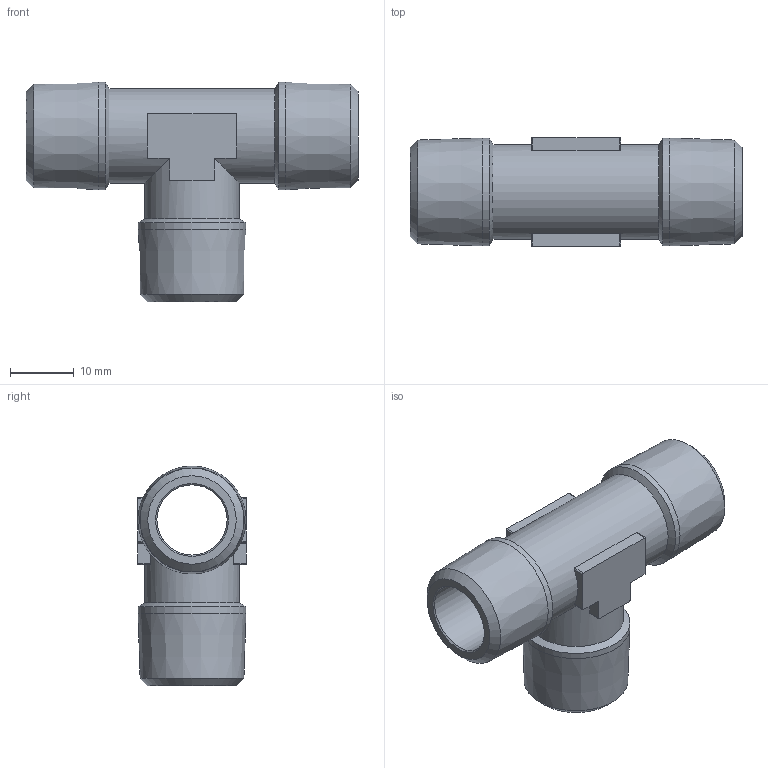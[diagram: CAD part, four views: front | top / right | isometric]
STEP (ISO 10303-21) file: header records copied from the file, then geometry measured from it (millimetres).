
FILE_DESCRIPTION(/* description */ (''),/* implementation_level */ '2;1');
FILE_NAME(/* name */ '40105_116_R38_29.09.16',/* time_stamp */ '2016-09-29T09:59:15+02:00',/* author */ (''),/* organization */ (''),/* preprocessor_version */ 'ST-DEVELOPER v16.5',/* originating_system */ 'HiCAD 2016 2101.0 Build 254',/* authorisation */ '');
FILE_SCHEMA (('AUTOMOTIVE_DESIGN { 1 0 10303 214 1 1 1 1 }'));
Length unit declared in the file: millimetre
Products named in the file (2): Root; 40105
Assembly tree (1 placements, depth 2):
  Root
    40105
Bounding box: 52 x 17 x 34.45 mm (x, y, z)
Volume: 7263 mm3; surface area: 6315.2 mm2
Topology: 1 solids, 1 shells, 56 faces, 153 edges, 99 vertices
Faces by surface type: cylinder 23, plane 21, cone 12
Full cylindrical faces by diameter (mm): 11 x2, 14.8 x2, 16.893 x3
Entity records: 5576 total; most frequent: CARTESIAN_POINT 3016, DIRECTION 268, PRESENTATION_STYLE_ASSIGNMENT 251, COLOUR_RGB 251, DRAUGHTING_PRE_DEFINED_CURVE_FONT 250, CURVE_STYLE 250, OVER_RIDING_STYLED_ITEM 250, ORIENTED_EDGE 250
